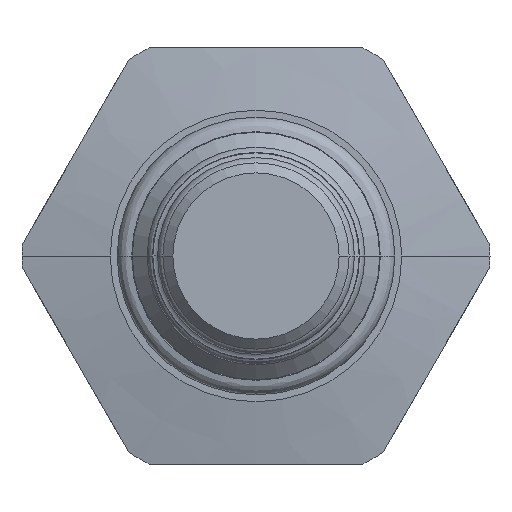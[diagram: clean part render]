
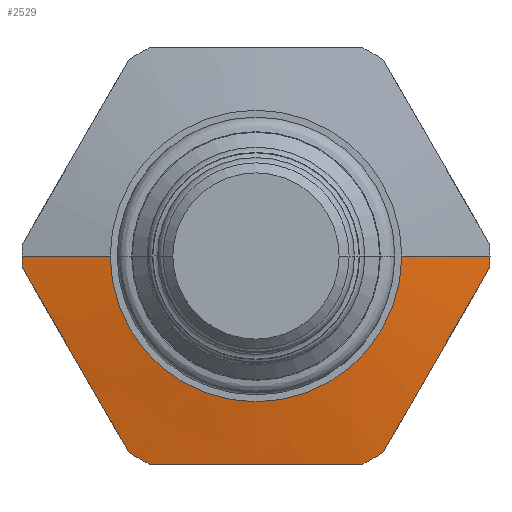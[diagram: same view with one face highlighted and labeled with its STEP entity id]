
A CAD part, front view. The second image highlights one B-rep face of the part: STEP entity #2529.
In plain terms, the highlighted conical face has half-angle 80 degrees and reference radius 14.478 mm.
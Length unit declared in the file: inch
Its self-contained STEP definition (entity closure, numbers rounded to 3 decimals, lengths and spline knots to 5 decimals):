
#103=CARTESIAN_POINT('',(-0.38089,0.07673,
-0.59028));
#104=CARTESIAN_POINT('',(-0.38768,0.07563,
-0.57852));
#105=CARTESIAN_POINT('',(-0.40119,0.07357,
-0.55512));
#106=CARTESIAN_POINT('',(-0.42122,0.07085,
-0.52043));
#107=CARTESIAN_POINT('',(-0.44116,0.06851,
-0.4859));
#108=CARTESIAN_POINT('',(-0.46108,0.06656,
-0.45139));
#109=CARTESIAN_POINT('',(-0.48104,0.06502,
-0.41681));
#110=CARTESIAN_POINT('',(-0.50106,0.0639,
-0.38213));
#111=CARTESIAN_POINT('',(-0.52115,0.06321,
-0.34735));
#112=CARTESIAN_POINT('',(-0.54127,0.06299,
-0.3125));
#113=CARTESIAN_POINT('',(-0.56139,0.06321,
-0.27765));
#114=CARTESIAN_POINT('',(-0.58147,0.0639,
-0.24287));
#115=CARTESIAN_POINT('',(-0.60149,0.06502,
-0.20819));
#116=CARTESIAN_POINT('',(-0.62145,0.06656,
-0.17361));
#117=CARTESIAN_POINT('',(-0.64138,0.06851,
-0.1391));
#118=CARTESIAN_POINT('',(-0.66132,0.07085,
-0.10457));
#119=CARTESIAN_POINT('',(-0.68134,0.07357,
-0.06988));
#120=CARTESIAN_POINT('',(-0.69485,0.07563,
-0.04648));
#121=CARTESIAN_POINT('',(-0.70164,0.07673,
-0.03472));
#123=CARTESIAN_POINT('',(0.,0.07673,0.));
#124=DIRECTION('',(0.,1.,0.));
#125=DIRECTION('',(-0.999,0.,-0.049));
#126=AXIS2_PLACEMENT_3D('',#123,#124,#125);
#128=CARTESIAN_POINT('',(0.,0.07673,0.));
#129=DIRECTION('',(0.,1.,0.));
#130=DIRECTION('',(1.,0.,0.));
#131=AXIS2_PLACEMENT_3D('',#128,#129,#130);
#133=CARTESIAN_POINT('',(0.,0.07673,0.));
#134=DIRECTION('',(0.,1.,0.));
#135=DIRECTION('',(0.542,0.,-0.84));
#136=AXIS2_PLACEMENT_3D('',#133,#134,#135);
#138=CARTESIAN_POINT('',(0.,0.07673,0.));
#139=DIRECTION('',(0.,1.,0.));
#140=DIRECTION('',(-0.457,0.,-0.89));
#141=AXIS2_PLACEMENT_3D('',#138,#139,#140);
#252=DIRECTION('',(-0.985,-0.174,0.));
#253=VECTOR('',#252,0.26909);
#254=CARTESIAN_POINT('',(0.7025,0.07673,0.));
#255=LINE('',#254,#253);
#256=DIRECTION('',(0.985,-0.174,0.));
#257=VECTOR('',#256,0.26909);
#258=CARTESIAN_POINT('',(-0.7025,0.07673,0.));
#259=LINE('',#258,#257);
#359=CARTESIAN_POINT('',(0.70164,0.07673,
-0.03472));
#360=CARTESIAN_POINT('',(0.69485,0.07563,
-0.04648));
#361=CARTESIAN_POINT('',(0.68134,0.07357,
-0.06988));
#362=CARTESIAN_POINT('',(0.66132,0.07085,
-0.10457));
#363=CARTESIAN_POINT('',(0.64138,0.06851,
-0.1391));
#364=CARTESIAN_POINT('',(0.62145,0.06656,
-0.17361));
#365=CARTESIAN_POINT('',(0.60149,0.06502,
-0.20819));
#366=CARTESIAN_POINT('',(0.58147,0.0639,
-0.24287));
#367=CARTESIAN_POINT('',(0.56139,0.06321,
-0.27765));
#368=CARTESIAN_POINT('',(0.54127,0.06299,
-0.3125));
#369=CARTESIAN_POINT('',(0.52115,0.06321,
-0.34735));
#370=CARTESIAN_POINT('',(0.50106,0.0639,
-0.38213));
#371=CARTESIAN_POINT('',(0.48104,0.06502,
-0.41681));
#372=CARTESIAN_POINT('',(0.46108,0.06656,
-0.45139));
#373=CARTESIAN_POINT('',(0.44116,0.06851,
-0.4859));
#374=CARTESIAN_POINT('',(0.42122,0.07085,
-0.52043));
#375=CARTESIAN_POINT('',(0.40119,0.07357,
-0.55512));
#376=CARTESIAN_POINT('',(0.38768,0.07563,
-0.57852));
#377=CARTESIAN_POINT('',(0.38089,0.07673,
-0.59028));
#411=CARTESIAN_POINT('',(0.32075,0.07673,-0.625));
#412=CARTESIAN_POINT('',(0.30718,0.07563,-0.625));
#413=CARTESIAN_POINT('',(0.28016,0.07357,-0.625));
#414=CARTESIAN_POINT('',(0.2401,0.07085,-0.625));
#415=CARTESIAN_POINT('',(0.20022,0.06851,-0.625));
#416=CARTESIAN_POINT('',(0.16037,0.06656,-0.625));
#417=CARTESIAN_POINT('',(0.12045,0.06502,-0.625));
#418=CARTESIAN_POINT('',(0.08041,0.0639,-0.625));
#419=CARTESIAN_POINT('',(0.04024,0.06321,-0.625));
#420=CARTESIAN_POINT('',(0.,0.06299,-0.625));
#421=CARTESIAN_POINT('',(-0.04024,0.06321,-0.625));
#422=CARTESIAN_POINT('',(-0.08041,0.0639,-0.625));
#423=CARTESIAN_POINT('',(-0.12045,0.06502,-0.625));
#424=CARTESIAN_POINT('',(-0.16037,0.06656,-0.625));
#425=CARTESIAN_POINT('',(-0.20022,0.06851,-0.625));
#426=CARTESIAN_POINT('',(-0.2401,0.07085,-0.625));
#427=CARTESIAN_POINT('',(-0.28016,0.07357,-0.625));
#428=CARTESIAN_POINT('',(-0.30718,0.07563,-0.625));
#429=CARTESIAN_POINT('',(-0.32075,0.07673,-0.625));
#454=CARTESIAN_POINT('',(0.,0.03,0.));
#455=DIRECTION('',(0.,1.,0.));
#456=DIRECTION('',(1.,0.,0.));
#457=AXIS2_PLACEMENT_3D('',#454,#455,#456);
#2133=CARTESIAN_POINT('',(0.4375,0.03,0.));
#2135=VERTEX_POINT('',#2133);
#2141=CARTESIAN_POINT('',(-0.4375,0.03,0.));
#2143=VERTEX_POINT('',#2141);
#2153=CARTESIAN_POINT('',(0.7025,0.07673,0.));
#2154=VERTEX_POINT('',#2153);
#2155=CARTESIAN_POINT('',(-0.7025,0.07673,0.));
#2156=VERTEX_POINT('',#2155);
#2209=CARTESIAN_POINT('',(-0.38089,0.07673,
-0.59028));
#2211=VERTEX_POINT('',#2209);
#2213=CARTESIAN_POINT('',(-0.70164,0.07673,
-0.03472));
#2215=VERTEX_POINT('',#2213);
#2217=CARTESIAN_POINT('',(0.32075,0.07673,-0.625));
#2219=VERTEX_POINT('',#2217);
#2221=CARTESIAN_POINT('',(-0.32075,0.07673,-0.625));
#2223=VERTEX_POINT('',#2221);
#2225=CARTESIAN_POINT('',(0.70164,0.07673,
-0.03472));
#2227=VERTEX_POINT('',#2225);
#2229=CARTESIAN_POINT('',(0.38089,0.07673,
-0.59028));
#2231=VERTEX_POINT('',#2229);
#2504=CARTESIAN_POINT('',(0.,0.05336,0.));
#2505=DIRECTION('',(0.,1.,0.));
#2506=DIRECTION('',(1.,0.,0.));
#2507=AXIS2_PLACEMENT_3D('',#2504,#2505,#2506);
#2508=CONICAL_SURFACE('',#2507,0.57,80.);
#2509=ORIENTED_EDGE('',*,*,#2484,.T.);
#2511=ORIENTED_EDGE('',*,*,#2510,.T.);
#2513=ORIENTED_EDGE('',*,*,#2512,.T.);
#2515=ORIENTED_EDGE('',*,*,#2514,.F.);
#2517=ORIENTED_EDGE('',*,*,#2516,.F.);
#2519=ORIENTED_EDGE('',*,*,#2518,.T.);
#2521=ORIENTED_EDGE('',*,*,#2520,.T.);
#2523=ORIENTED_EDGE('',*,*,#2522,.T.);
#2525=ORIENTED_EDGE('',*,*,#2524,.T.);
#2526=ORIENTED_EDGE('',*,*,#2495,.T.);
#2527=EDGE_LOOP('',(#2509,#2511,#2513,#2515,#2517,#2519,#2521,#2523,#2525,
#2526));
#2528=FACE_OUTER_BOUND('',#2527,.F.);
#2529=ADVANCED_FACE('',(#2528),#2508,.T.);
#122=B_SPLINE_CURVE_WITH_KNOTS('',3,(#103,#104,#105,#106,#107,#108,#109,#110,
#111,#112,#113,#114,#115,#116,#117,#118,#119,#120,#121),.UNSPECIFIED.,.F.,.F.,
(4,1,1,1,1,1,1,1,1,1,1,1,1,1,1,1,4),(0.,0.0625,0.125,0.1875,0.25,
0.3125,0.375,0.4375,0.5,0.5625,0.625,0.6875,0.75,0.8125,
0.875,0.9375,1.),.UNSPECIFIED.);
#127=CIRCLE('',#126,0.7025);
#132=CIRCLE('',#131,0.7025);
#137=CIRCLE('',#136,0.7025);
#142=CIRCLE('',#141,0.7025);
#378=B_SPLINE_CURVE_WITH_KNOTS('',3,(#359,#360,#361,#362,#363,#364,#365,#366,
#367,#368,#369,#370,#371,#372,#373,#374,#375,#376,#377),.UNSPECIFIED.,.F.,.F.,
(4,1,1,1,1,1,1,1,1,1,1,1,1,1,1,1,4),(0.,0.0625,0.125,0.1875,0.25,
0.3125,0.375,0.4375,0.5,0.5625,0.625,0.6875,0.75,0.8125,
0.875,0.9375,1.),.UNSPECIFIED.);
#430=B_SPLINE_CURVE_WITH_KNOTS('',3,(#411,#412,#413,#414,#415,#416,#417,#418,
#419,#420,#421,#422,#423,#424,#425,#426,#427,#428,#429),.UNSPECIFIED.,.F.,.F.,
(4,1,1,1,1,1,1,1,1,1,1,1,1,1,1,1,4),(0.,0.0625,0.125,0.1875,0.25,
0.3125,0.375,0.4375,0.5,0.5625,0.625,0.6875,0.75,0.8125,
0.875,0.9375,1.),.UNSPECIFIED.);
#458=CIRCLE('',#457,0.4375);
#2484=EDGE_CURVE('',#2211,#2215,#122,.T.);
#2495=EDGE_CURVE('',#2223,#2211,#142,.T.);
#2510=EDGE_CURVE('',#2215,#2156,#127,.T.);
#2512=EDGE_CURVE('',#2156,#2143,#259,.T.);
#2514=EDGE_CURVE('',#2135,#2143,#458,.T.);
#2516=EDGE_CURVE('',#2154,#2135,#255,.T.);
#2518=EDGE_CURVE('',#2154,#2227,#132,.T.);
#2520=EDGE_CURVE('',#2227,#2231,#378,.T.);
#2522=EDGE_CURVE('',#2231,#2219,#137,.T.);
#2524=EDGE_CURVE('',#2219,#2223,#430,.T.);
